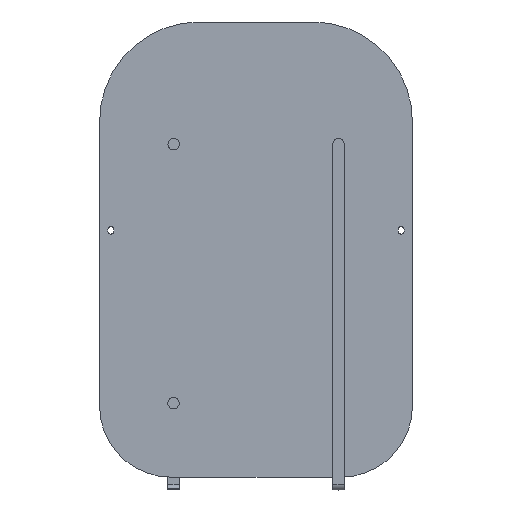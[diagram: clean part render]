
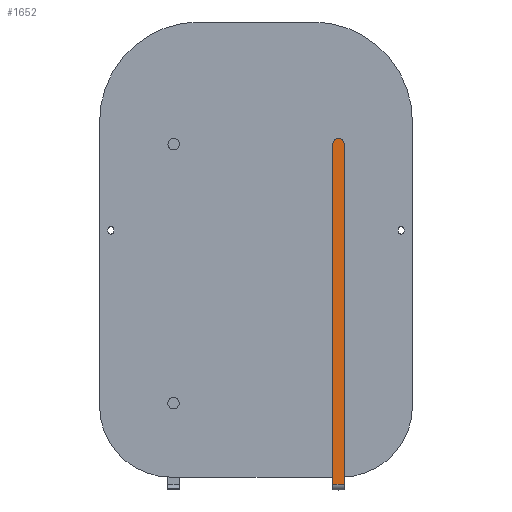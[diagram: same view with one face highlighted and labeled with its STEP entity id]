
A CAD part, top view. The second image highlights one B-rep face of the part: STEP entity #1652.
In plain terms, the highlighted planar face has unit normal (0, 0, 1) as drawn and (0, 0, -1) by its records, which use the part's own axes.
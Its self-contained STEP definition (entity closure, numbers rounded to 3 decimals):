
#17 = ORIENTED_EDGE ( 'NONE', *, *, #3652, .F. ) ;
#287 = CARTESIAN_POINT ( 'NONE',  ( 20., 1215., -5. ) ) ;
#473 = VECTOR ( 'NONE', #598, 1000. ) ;
#598 = DIRECTION ( 'NONE',  ( 0., -1., 0. ) ) ;
#620 = CARTESIAN_POINT ( 'NONE',  ( 0., 0., -5. ) ) ;
#685 = ORIENTED_EDGE ( 'NONE', *, *, #3118, .F. ) ;
#1050 = CARTESIAN_POINT ( 'NONE',  ( 40., 20., -5. ) ) ;
#1164 = VECTOR ( 'NONE', #2804, 1000. ) ;
#1319 = EDGE_CURVE ( 'NONE', #1639, #2205, #2527, .T. ) ;
#1461 = DIRECTION ( 'NONE',  ( 0., 0., 1. ) ) ;
#1497 = DIRECTION ( 'NONE',  ( 1., 0., 0. ) ) ;
#1572 = CARTESIAN_POINT ( 'NONE',  ( 0., 20., -5. ) ) ;
#1591 = AXIS2_PLACEMENT_3D ( 'NONE', #3538, #3570, #1497 ) ;
#1639 = VERTEX_POINT ( 'NONE', #3475 ) ;
#1652 = ADVANCED_FACE ( 'NONE', ( #2286 ), #3506, .F. ) ;
#1951 = LINE ( 'NONE', #5201, #5179 ) ;
#2017 = EDGE_LOOP ( 'NONE', ( #5110, #17, #2593, #685 ) ) ;
#2205 = VERTEX_POINT ( 'NONE', #3817 ) ;
#2286 = FACE_OUTER_BOUND ( 'NONE', #2017, .T. ) ;
#2374 = CARTESIAN_POINT ( 'NONE',  ( 40., 0., -5. ) ) ;
#2527 = CIRCLE ( 'NONE', #1591, 20. ) ;
#2593 = ORIENTED_EDGE ( 'NONE', *, *, #1319, .F. ) ;
#2750 = LINE ( 'NONE', #620, #473 ) ;
#2804 = DIRECTION ( 'NONE',  ( 0., 1., 0. ) ) ;
#3111 = VERTEX_POINT ( 'NONE', #1572 ) ;
#3118 = EDGE_CURVE ( 'NONE', #4245, #1639, #4485, .T. ) ;
#3176 = DIRECTION ( 'NONE',  ( -1., 0., 0. ) ) ;
#3475 = CARTESIAN_POINT ( 'NONE',  ( 40., 1215., -5. ) ) ;
#3506 = PLANE ( 'NONE',  #4818 ) ;
#3538 = CARTESIAN_POINT ( 'NONE',  ( 20., 1215., -5. ) ) ;
#3570 = DIRECTION ( 'NONE',  ( 0., 0., 1. ) ) ;
#3652 = EDGE_CURVE ( 'NONE', #2205, #3111, #2750, .T. ) ;
#3817 = CARTESIAN_POINT ( 'NONE',  ( 0., 1215., -5. ) ) ;
#4245 = VERTEX_POINT ( 'NONE', #1050 ) ;
#4251 = EDGE_CURVE ( 'NONE', #4245, #3111, #1951, .T. ) ;
#4485 = LINE ( 'NONE', #2374, #1164 ) ;
#4779 = DIRECTION ( 'NONE',  ( 1., 0., 0. ) ) ;
#4818 = AXIS2_PLACEMENT_3D ( 'NONE', #287, #1461, #4779 ) ;
#5110 = ORIENTED_EDGE ( 'NONE', *, *, #4251, .T. ) ;
#5179 = VECTOR ( 'NONE', #3176, 1000. ) ;
#5201 = CARTESIAN_POINT ( 'NONE',  ( 40., 20., -5. ) ) ;
